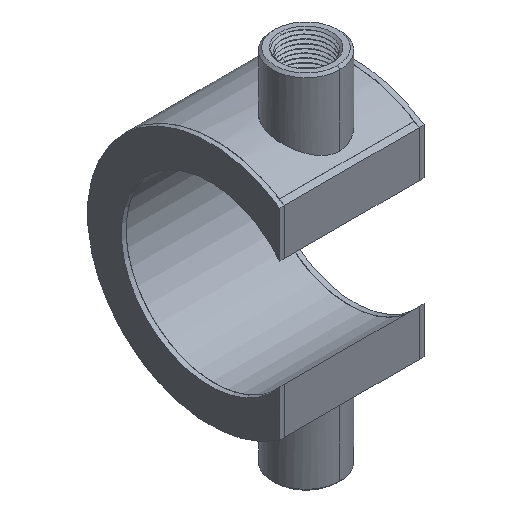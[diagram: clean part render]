
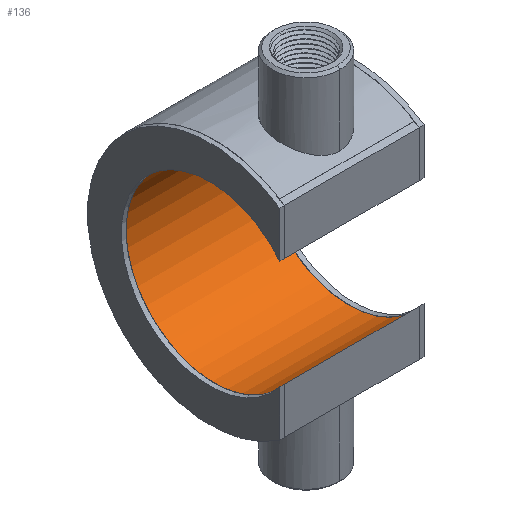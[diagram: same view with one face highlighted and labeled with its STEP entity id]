
A CAD part, isometric view. The second image highlights one B-rep face of the part: STEP entity #136.
In plain terms, the highlighted cylindrical face has radius 36.75 mm (diameter 73.5 mm), a partial arc.
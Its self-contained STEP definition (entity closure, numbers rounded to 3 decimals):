
#16=CARTESIAN_POINT('',(0.,0.,0.));
#17=DIRECTION('',(-1.,0.,0.));
#18=DIRECTION('',(0.,-0.735,0.678));
#19=AXIS2_PLACEMENT_3D('',#16,#17,#18);
#25=DIRECTION('',(1.,0.,0.));
#26=VECTOR('',#25,56.);
#27=CARTESIAN_POINT('',(-56.,-27.,-24.931));
#28=LINE('',#27,#26);
#32=CARTESIAN_POINT('',(-56.,0.,0.));
#33=DIRECTION('',(1.,0.,0.));
#34=DIRECTION('',(0.,-0.735,-0.678));
#35=AXIS2_PLACEMENT_3D('',#32,#33,#34);
#40=DIRECTION('',(1.,0.,0.));
#41=VECTOR('',#40,56.);
#42=CARTESIAN_POINT('',(-56.,-27.,24.931));
#43=LINE('',#42,#41);
#105=CARTESIAN_POINT('',(-56.,-27.,24.931));
#106=CARTESIAN_POINT('',(0.,-27.,24.931));
#107=VERTEX_POINT('',#105);
#108=VERTEX_POINT('',#106);
#110=CARTESIAN_POINT('',(0.,-27.,-24.931));
#112=VERTEX_POINT('',#110);
#118=CARTESIAN_POINT('',(-56.,-27.,-24.931));
#120=VERTEX_POINT('',#118);
#121=CARTESIAN_POINT('',(-58.8,0.,0.));
#122=DIRECTION('',(1.,0.,0.));
#123=DIRECTION('',(0.,-1.,0.));
#124=AXIS2_PLACEMENT_3D('',#121,#122,#123);
#125=CYLINDRICAL_SURFACE('',#124,36.75);
#127=ORIENTED_EDGE('',*,*,#126,.T.);
#129=ORIENTED_EDGE('',*,*,#128,.F.);
#131=ORIENTED_EDGE('',*,*,#130,.T.);
#133=ORIENTED_EDGE('',*,*,#132,.T.);
#134=EDGE_LOOP('',(#127,#129,#131,#133));
#135=FACE_OUTER_BOUND('',#134,.F.);
#136=ADVANCED_FACE('',(#135),#125,.F.);
#20=CIRCLE('',#19,36.75);
#36=CIRCLE('',#35,36.75);
#126=EDGE_CURVE('',#108,#112,#20,.T.);
#128=EDGE_CURVE('',#120,#112,#28,.T.);
#130=EDGE_CURVE('',#120,#107,#36,.T.);
#132=EDGE_CURVE('',#107,#108,#43,.T.);
